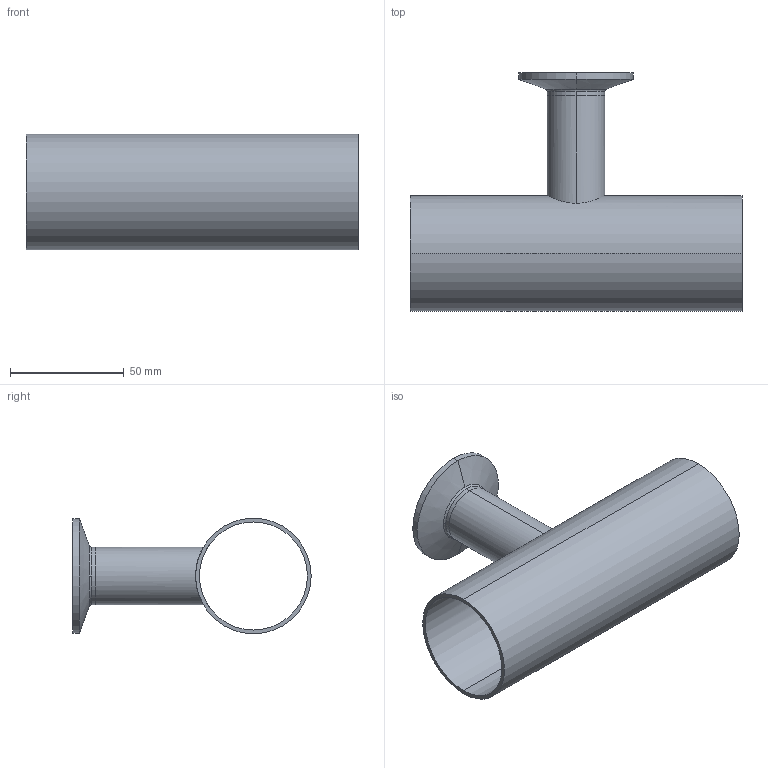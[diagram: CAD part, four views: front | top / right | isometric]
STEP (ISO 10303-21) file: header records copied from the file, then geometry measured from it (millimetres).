
FILE_DESCRIPTION (( 'STEP AP214' ), '1' );
FILE_NAME ('TE7RWWC6L2.0x1.0-...STEP', '2016-05-23T08:04:37', ( 'eran' ), ( '' ), 'SwSTEP 2.0', 'SolidWorks 2016', '' );
FILE_SCHEMA (( 'AUTOMOTIVE_DESIGN' ));
Length unit declared in the file: millimetre
Products named in the file (1): TE7RWWC6L2.0x1.0-..
Bounding box: 146 x 104.8 x 50.8 mm (x, y, z)
Volume: 50446.5 mm3; surface area: 56432.9 mm2
Topology: 2 solids, 2 shells, 36 faces, 88 edges, 58 vertices
Faces by surface type: cylinder 14, bspline 10, plane 6, cone 6
Entity records: 1835 total; most frequent: CARTESIAN_POINT 931, DIRECTION 190, ORIENTED_EDGE 176, EDGE_CURVE 88, AXIS2_PLACEMENT_3D 85, VERTEX_POINT 58, CIRCLE 58, EDGE_LOOP 44
